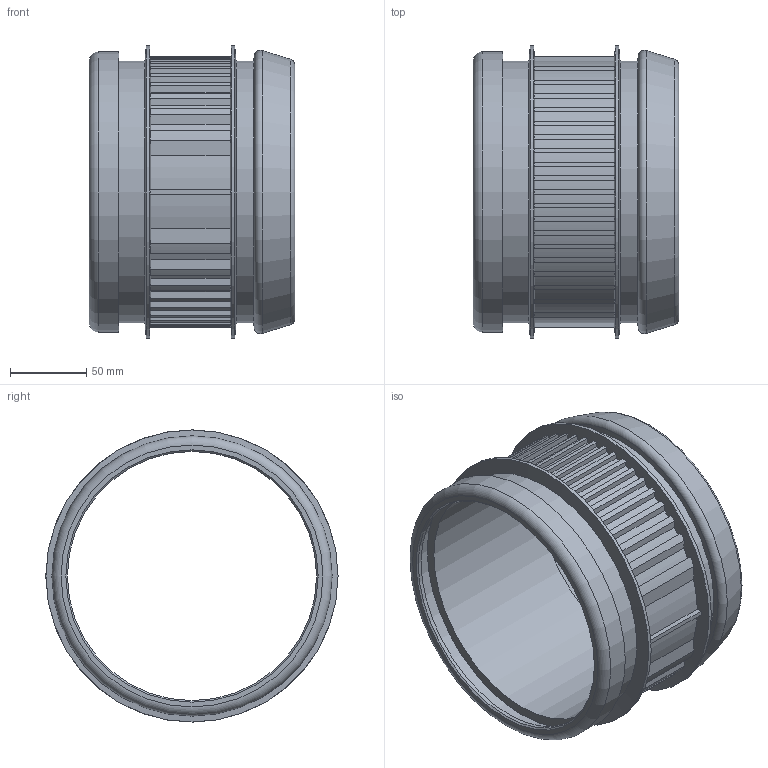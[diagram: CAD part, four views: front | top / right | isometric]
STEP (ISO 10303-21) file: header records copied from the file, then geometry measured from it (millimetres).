
FILE_DESCRIPTION(/* description */ (''),/* implementation_level */ '2;1');
FILE_NAME(/* name */ 'Z:\Geberit\Export\NewStep\315002.stp',/* time_stamp */ '2014-04-01T20:14:35+02:00',/* author */ ('ML'),/* organization */ (''),/* preprocessor_version */ 'ST-DEVELOPER v15.2',/* originating_system */ 'Autodesk Inventor 2014',/* authorisation */ '');
FILE_SCHEMA (('AUTOMOTIVE_DESIGN { 1 0 10303 214 3 1 1 }'));
Length unit declared in the file: millimetre
Products named in the file (1): 315002
Bounding box: 135 x 192 x 192 mm (x, y, z)
Volume: 399371.6 mm3; surface area: 205903.2 mm2
Topology: 1 solids, 1 shells, 188 faces, 535 edges, 351 vertices
Faces by surface type: cylinder 89, plane 84, cone 11, torus 4
Full cylindrical faces by diameter (mm): 163.8 x3, 171.8 x2, 176.2 x1, 184.2 x1, 192 x2
Entity records: 6047 total; most frequent: CARTESIAN_POINT 1363, ORIENTED_EDGE 1014, DIRECTION 912, EDGE_CURVE 507, AXIS2_PLACEMENT_3D 376, VERTEX_POINT 347, EDGE_LOOP 216, STYLED_ITEM 189
